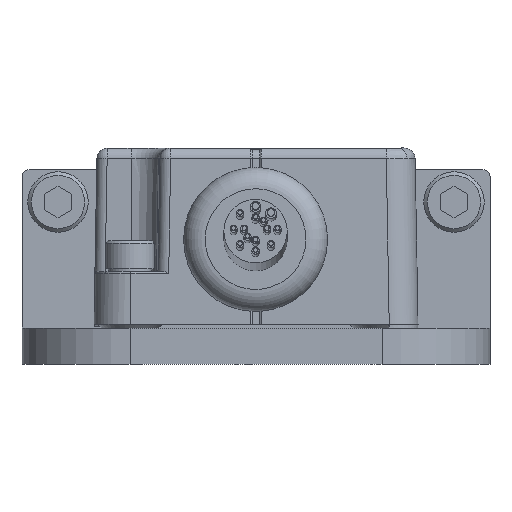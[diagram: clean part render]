
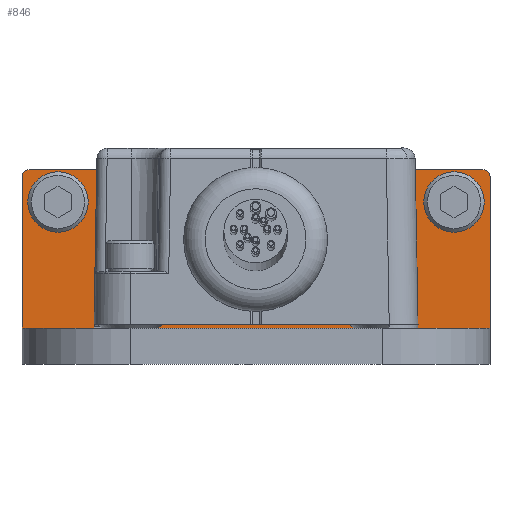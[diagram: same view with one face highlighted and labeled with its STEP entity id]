
A CAD part, front view. The second image highlights one B-rep face of the part: STEP entity #846.
In plain terms, the highlighted planar face has unit normal (0, -1, 0).
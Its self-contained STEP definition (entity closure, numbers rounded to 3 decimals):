
#846=ADVANCED_FACE('',(#1794,#1795,#1796),#1797,.F.);
#1794=FACE_BOUND('',#3166,.T.);
#1795=FACE_BOUND('',#3167,.T.);
#1796=FACE_OUTER_BOUND('',#3168,.T.);
#1797=PLANE('',#3169);
#3166=EDGE_LOOP('',(#5187));
#3167=EDGE_LOOP('',(#5188));
#3168=EDGE_LOOP('',(#5189,#5190,#5191,#5192,#5193,#5194));
#3169=AXIS2_PLACEMENT_3D('',#5195,#5196,#5197);
#5187=ORIENTED_EDGE('',*,*,#6048,.T.);
#5188=ORIENTED_EDGE('',*,*,#6214,.T.);
#5189=ORIENTED_EDGE('',*,*,#6194,.F.);
#5190=ORIENTED_EDGE('',*,*,#6184,.T.);
#5191=ORIENTED_EDGE('',*,*,#6062,.F.);
#5192=ORIENTED_EDGE('',*,*,#6104,.T.);
#5193=ORIENTED_EDGE('',*,*,#6199,.T.);
#5194=ORIENTED_EDGE('',*,*,#6098,.T.);
#5195=CARTESIAN_POINT('',(-32.5,-5.,4.5));
#5196=DIRECTION('',(-0.0,1.0,0.0));
#5197=DIRECTION('',(1.0,0.0,0.0));
#6048=EDGE_CURVE('',#7138,#7138,#7139,.T.);
#6062=EDGE_CURVE('',#7156,#7157,#7158,.T.);
#6098=EDGE_CURVE('',#7221,#7219,#7222,.T.);
#6104=EDGE_CURVE('',#7156,#7229,#7231,.T.);
#6184=EDGE_CURVE('',#7353,#7157,#7354,.T.);
#6194=EDGE_CURVE('',#7353,#7219,#7366,.T.);
#6199=EDGE_CURVE('',#7229,#7221,#7371,.T.);
#6214=EDGE_CURVE('',#7388,#7388,#7389,.T.);
#7138=VERTEX_POINT('',#9155);
#7139=CIRCLE('',#9156,4.192);
#7156=VERTEX_POINT('',#9176);
#7157=VERTEX_POINT('',#9177);
#7158=LINE('',#9178,#9179);
#7219=VERTEX_POINT('',#9257);
#7221=VERTEX_POINT('',#9260);
#7222=LINE('',#9261,#9262);
#7229=VERTEX_POINT('',#9270);
#7231=CIRCLE('',#9273,1.0);
#7353=VERTEX_POINT('',#9436);
#7354=CIRCLE('',#9437,1.0);
#7366=LINE('',#9453,#9454);
#7371=LINE('',#9460,#9461);
#7388=VERTEX_POINT('',#9480);
#7389=CIRCLE('',#9481,4.192);
#9155=CARTESIAN_POINT('',(27.5,-5.,-4.192));
#9156=AXIS2_PLACEMENT_3D('',#10234,#10235,#10236);
#9176=CARTESIAN_POINT('',(-31.5,-5.,4.5));
#9177=CARTESIAN_POINT('',(31.5,-5.,4.5));
#9178=CARTESIAN_POINT('',(-32.5,-5.,4.5));
#9179=VECTOR('',#10249,1.0);
#9257=CARTESIAN_POINT('',(32.5,-5.,-17.5));
#9260=CARTESIAN_POINT('',(-32.5,-5.,-17.5));
#9261=CARTESIAN_POINT('',(-32.5,-5.,-17.5));
#9262=VECTOR('',#10301,1.0);
#9270=CARTESIAN_POINT('',(-32.5,-5.,3.5));
#9273=AXIS2_PLACEMENT_3D('',#10310,#10311,#10312);
#9436=CARTESIAN_POINT('',(32.5,-5.,3.5));
#9437=AXIS2_PLACEMENT_3D('',#10390,#10391,#10392);
#9453=CARTESIAN_POINT('',(32.5,-5.,4.5));
#9454=VECTOR('',#10400,1.0);
#9460=CARTESIAN_POINT('',(-32.5,-5.,4.5));
#9461=VECTOR('',#10405,1.0);
#9480=CARTESIAN_POINT('',(-27.5,-5.,-4.192));
#9481=AXIS2_PLACEMENT_3D('',#10429,#10430,#10431);
#10234=CARTESIAN_POINT('',(27.5,-5.,0.0));
#10235=DIRECTION('',(0.0,1.0,0.));
#10236=DIRECTION('',(0.0,0.,-1.0));
#10249=DIRECTION('',(1.0,0.0,0.0));
#10301=DIRECTION('',(1.0,0.0,0.0));
#10310=CARTESIAN_POINT('',(-31.5,-5.,3.5));
#10311=DIRECTION('',(0.0,-1.0,0.0));
#10312=DIRECTION('',(0.0,0.0,-1.0));
#10390=CARTESIAN_POINT('',(31.5,-5.,3.5));
#10391=DIRECTION('',(0.0,-1.0,0.0));
#10392=DIRECTION('',(0.0,0.0,-1.0));
#10400=DIRECTION('',(0.0,0.0,-1.0));
#10405=DIRECTION('',(0.0,0.0,-1.0));
#10429=CARTESIAN_POINT('',(-27.5,-5.,0.0));
#10430=DIRECTION('',(0.0,1.0,0.));
#10431=DIRECTION('',(0.0,0.,-1.0));
